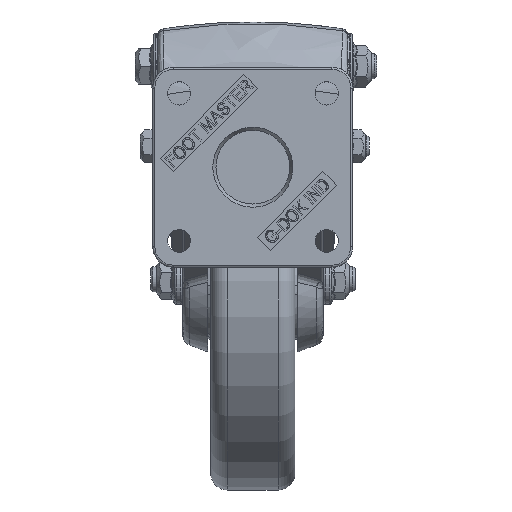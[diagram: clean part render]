
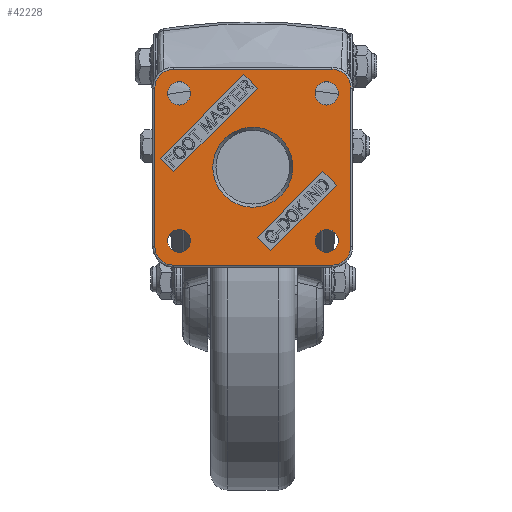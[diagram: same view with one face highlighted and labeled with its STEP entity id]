
A CAD part, top view. The second image highlights one B-rep face of the part: STEP entity #42228.
In plain terms, the highlighted planar face has unit normal (0, 0, 1).
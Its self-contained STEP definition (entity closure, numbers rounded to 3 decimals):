
#4235=CARTESIAN_POINT('',(-19.0,0.,10.7));
#4236=VERTEX_POINT('',#4235);
#4237=CARTESIAN_POINT('',(0.0,0.0,10.7));
#4238=DIRECTION('',(0.0,0.0,-1.0));
#4239=DIRECTION('',(1.0,0.0,0.0));
#4240=AXIS2_PLACEMENT_3D('',#4237,#4238,#4239);
#4241=CIRCLE('',#4240,19.0);
#4242=EDGE_CURVE('',#4236,#4236,#4241,.T.);
#4274=CARTESIAN_POINT('',(29.5,35.,10.7));
#4275=VERTEX_POINT('',#4274);
#4276=CARTESIAN_POINT('',(35.,35.,10.7));
#4277=DIRECTION('',(0.0,0.0,-1.0));
#4278=DIRECTION('',(1.0,0.0,0.0));
#4279=AXIS2_PLACEMENT_3D('',#4276,#4277,#4278);
#4280=CIRCLE('',#4279,5.5);
#4281=EDGE_CURVE('',#4275,#4275,#4280,.T.);
#4302=CARTESIAN_POINT('',(-35.,29.5,10.7));
#4303=VERTEX_POINT('',#4302);
#4304=CARTESIAN_POINT('',(-35.,35.,10.7));
#4305=DIRECTION('',(0.0,0.0,-1.0));
#4306=DIRECTION('',(0.0,1.0,0.0));
#4307=AXIS2_PLACEMENT_3D('',#4304,#4305,#4306);
#4308=CIRCLE('',#4307,5.5);
#4309=EDGE_CURVE('',#4303,#4303,#4308,.T.);
#4330=CARTESIAN_POINT('',(-29.5,-35.,10.7));
#4331=VERTEX_POINT('',#4330);
#4332=CARTESIAN_POINT('',(-35.,-35.,10.7));
#4333=DIRECTION('',(0.0,0.0,-1.0));
#4334=DIRECTION('',(-1.0,0.0,0.0));
#4335=AXIS2_PLACEMENT_3D('',#4332,#4333,#4334);
#4336=CIRCLE('',#4335,5.5);
#4337=EDGE_CURVE('',#4331,#4331,#4336,.T.);
#4358=CARTESIAN_POINT('',(35.,-29.5,10.7));
#4359=VERTEX_POINT('',#4358);
#4360=CARTESIAN_POINT('',(35.,-35.,10.7));
#4361=DIRECTION('',(0.0,0.0,-1.0));
#4362=DIRECTION('',(0.0,-1.0,0.0));
#4363=AXIS2_PLACEMENT_3D('',#4360,#4361,#4362);
#4364=CIRCLE('',#4363,5.5);
#4365=EDGE_CURVE('',#4359,#4359,#4364,.T.);
#41853=CARTESIAN_POINT('',(46.5,37.5,10.7));
#41854=VERTEX_POINT('',#41853);
#41862=CARTESIAN_POINT('',(46.5,-37.5,10.7));
#41863=VERTEX_POINT('',#41862);
#41864=CARTESIAN_POINT('',(46.5,37.5,10.7));
#41865=DIRECTION('',(0.0,-1.0,0.0));
#41866=VECTOR('',#41865,75.);
#41867=LINE('',#41864,#41866);
#41868=EDGE_CURVE('',#41854,#41863,#41867,.T.);
#41894=CARTESIAN_POINT('',(37.5,46.5,10.7));
#41895=VERTEX_POINT('',#41894);
#41903=CARTESIAN_POINT('',(37.5,37.5,10.7));
#41904=DIRECTION('',(0.0,0.0,-1.));
#41905=DIRECTION('',(0.707,0.707,0.0));
#41906=AXIS2_PLACEMENT_3D('',#41903,#41904,#41905);
#41907=CIRCLE('',#41906,9.);
#41908=EDGE_CURVE('',#41895,#41854,#41907,.T.);
#41919=CARTESIAN_POINT('',(37.5,-46.5,10.7));
#41920=VERTEX_POINT('',#41919);
#41921=CARTESIAN_POINT('',(37.5,-37.5,10.7));
#41922=DIRECTION('',(0.0,0.0,-1.));
#41923=DIRECTION('',(0.707,-0.707,0.0));
#41924=AXIS2_PLACEMENT_3D('',#41921,#41922,#41923);
#41925=CIRCLE('',#41924,9.);
#41926=EDGE_CURVE('',#41863,#41920,#41925,.T.);
#41953=CARTESIAN_POINT('',(-37.5,46.5,10.7));
#41954=VERTEX_POINT('',#41953);
#41962=CARTESIAN_POINT('',(-37.5,46.5,10.7));
#41963=DIRECTION('',(1.0,0.0,0.0));
#41964=VECTOR('',#41963,75.0);
#41965=LINE('',#41962,#41964);
#41966=EDGE_CURVE('',#41954,#41895,#41965,.T.);
#41977=CARTESIAN_POINT('',(-37.5,-46.5,10.7));
#41978=VERTEX_POINT('',#41977);
#41979=CARTESIAN_POINT('',(37.5,-46.5,10.7));
#41980=DIRECTION('',(-1.0,0.0,0.0));
#41981=VECTOR('',#41980,75.0);
#41982=LINE('',#41979,#41981);
#41983=EDGE_CURVE('',#41920,#41978,#41982,.T.);
#42011=CARTESIAN_POINT('',(-46.5,37.5,10.7));
#42012=VERTEX_POINT('',#42011);
#42020=CARTESIAN_POINT('',(-37.5,37.5,10.7));
#42021=DIRECTION('',(0.0,0.0,-1.));
#42022=DIRECTION('',(-0.707,0.707,0.0));
#42023=AXIS2_PLACEMENT_3D('',#42020,#42021,#42022);
#42024=CIRCLE('',#42023,9.);
#42025=EDGE_CURVE('',#42012,#41954,#42024,.T.);
#42036=CARTESIAN_POINT('',(-46.5,-37.5,10.7));
#42037=VERTEX_POINT('',#42036);
#42038=CARTESIAN_POINT('',(-37.5,-37.5,10.7));
#42039=DIRECTION('',(0.0,0.0,-1.));
#42040=DIRECTION('',(-0.707,-0.707,0.0));
#42041=AXIS2_PLACEMENT_3D('',#42038,#42039,#42040);
#42042=CIRCLE('',#42041,9.);
#42043=EDGE_CURVE('',#41978,#42037,#42042,.T.);
#42069=CARTESIAN_POINT('',(-46.5,-37.5,10.7));
#42070=DIRECTION('',(0.0,1.0,0.0));
#42071=VECTOR('',#42070,75.);
#42072=LINE('',#42069,#42071);
#42073=EDGE_CURVE('',#42037,#42012,#42072,.T.);
#42130=CARTESIAN_POINT('',(0.,0.,10.7));
#42131=DIRECTION('',(0.0,0.0,-1.0));
#42132=DIRECTION('',(-1.0,0.0,0.0));
#42133=AXIS2_PLACEMENT_3D('',#42130,#42131,#42132);
#42134=PLANE('',#42133);
#42135=ORIENTED_EDGE('',*,*,#41868,.F.);
#42136=ORIENTED_EDGE('',*,*,#41908,.F.);
#42137=ORIENTED_EDGE('',*,*,#41966,.F.);
#42138=ORIENTED_EDGE('',*,*,#42025,.F.);
#42139=ORIENTED_EDGE('',*,*,#42073,.F.);
#42140=ORIENTED_EDGE('',*,*,#42043,.F.);
#42141=ORIENTED_EDGE('',*,*,#41983,.F.);
#42142=ORIENTED_EDGE('',*,*,#41926,.F.);
#42143=EDGE_LOOP('',(#42135,#42136,#42137,#42138,#42139,#42140,#42141,#42142));
#42144=FACE_OUTER_BOUND('',#42143,.T.);
#42145=ORIENTED_EDGE('',*,*,#4242,.T.);
#42146=EDGE_LOOP('',(#42145));
#42147=FACE_BOUND('',#42146,.T.);
#42148=ORIENTED_EDGE('',*,*,#4281,.T.);
#42149=EDGE_LOOP('',(#42148));
#42150=FACE_BOUND('',#42149,.T.);
#42151=ORIENTED_EDGE('',*,*,#4309,.T.);
#42152=EDGE_LOOP('',(#42151));
#42153=FACE_BOUND('',#42152,.T.);
#42154=ORIENTED_EDGE('',*,*,#4337,.T.);
#42155=EDGE_LOOP('',(#42154));
#42156=FACE_BOUND('',#42155,.T.);
#42157=ORIENTED_EDGE('',*,*,#4365,.T.);
#42158=EDGE_LOOP('',(#42157));
#42159=FACE_BOUND('',#42158,.T.);
#42160=CARTESIAN_POINT('',(-43.841,4.243,10.7));
#42161=VERTEX_POINT('',#42160);
#42162=CARTESIAN_POINT('',(-4.243,43.841,10.7));
#42163=VERTEX_POINT('',#42162);
#42164=CARTESIAN_POINT('',(-43.841,4.243,10.7));
#42165=DIRECTION('',(0.707,0.707,0.0));
#42166=VECTOR('',#42165,56.);
#42167=LINE('',#42164,#42166);
#42168=EDGE_CURVE('',#42161,#42163,#42167,.T.);
#42169=ORIENTED_EDGE('',*,*,#42168,.T.);
#42170=CARTESIAN_POINT('',(2.121,37.477,10.7));
#42171=VERTEX_POINT('',#42170);
#42172=CARTESIAN_POINT('',(-4.243,43.841,10.7));
#42173=DIRECTION('',(0.707,-0.707,0.0));
#42174=VECTOR('',#42173,9.);
#42175=LINE('',#42172,#42174);
#42176=EDGE_CURVE('',#42163,#42171,#42175,.T.);
#42177=ORIENTED_EDGE('',*,*,#42176,.T.);
#42178=CARTESIAN_POINT('',(-37.477,-2.121,10.7));
#42179=VERTEX_POINT('',#42178);
#42180=CARTESIAN_POINT('',(2.121,37.477,10.7));
#42181=DIRECTION('',(-0.707,-0.707,0.0));
#42182=VECTOR('',#42181,56.0);
#42183=LINE('',#42180,#42182);
#42184=EDGE_CURVE('',#42171,#42179,#42183,.T.);
#42185=ORIENTED_EDGE('',*,*,#42184,.T.);
#42186=CARTESIAN_POINT('',(-37.477,-2.121,10.7));
#42187=DIRECTION('',(-0.707,0.707,0.0));
#42188=VECTOR('',#42187,9.);
#42189=LINE('',#42186,#42188);
#42190=EDGE_CURVE('',#42179,#42161,#42189,.T.);
#42191=ORIENTED_EDGE('',*,*,#42190,.T.);
#42192=EDGE_LOOP('',(#42169,#42177,#42185,#42191));
#42193=FACE_BOUND('',#42192,.T.);
#42194=CARTESIAN_POINT('',(39.598,-8.485,10.7));
#42195=VERTEX_POINT('',#42194);
#42196=CARTESIAN_POINT('',(8.485,-39.598,10.7));
#42197=VERTEX_POINT('',#42196);
#42198=CARTESIAN_POINT('',(39.598,-8.485,10.7));
#42199=DIRECTION('',(-0.707,-0.707,0.0));
#42200=VECTOR('',#42199,44.0);
#42201=LINE('',#42198,#42200);
#42202=EDGE_CURVE('',#42195,#42197,#42201,.T.);
#42203=ORIENTED_EDGE('',*,*,#42202,.T.);
#42204=CARTESIAN_POINT('',(2.121,-33.234,10.7));
#42205=VERTEX_POINT('',#42204);
#42206=CARTESIAN_POINT('',(8.485,-39.598,10.7));
#42207=DIRECTION('',(-0.707,0.707,0.0));
#42208=VECTOR('',#42207,9.);
#42209=LINE('',#42206,#42208);
#42210=EDGE_CURVE('',#42197,#42205,#42209,.T.);
#42211=ORIENTED_EDGE('',*,*,#42210,.T.);
#42212=CARTESIAN_POINT('',(33.234,-2.121,10.7));
#42213=VERTEX_POINT('',#42212);
#42214=CARTESIAN_POINT('',(2.121,-33.234,10.7));
#42215=DIRECTION('',(0.707,0.707,0.0));
#42216=VECTOR('',#42215,44.);
#42217=LINE('',#42214,#42216);
#42218=EDGE_CURVE('',#42205,#42213,#42217,.T.);
#42219=ORIENTED_EDGE('',*,*,#42218,.T.);
#42220=CARTESIAN_POINT('',(33.234,-2.121,10.7));
#42221=DIRECTION('',(0.707,-0.707,0.0));
#42222=VECTOR('',#42221,9.);
#42223=LINE('',#42220,#42222);
#42224=EDGE_CURVE('',#42213,#42195,#42223,.T.);
#42225=ORIENTED_EDGE('',*,*,#42224,.T.);
#42226=EDGE_LOOP('',(#42203,#42211,#42219,#42225));
#42227=FACE_BOUND('',#42226,.T.);
#42228=ADVANCED_FACE('',(#42144,#42147,#42150,#42153,#42156,#42159,#42193,#42227),#42134,.F.);
